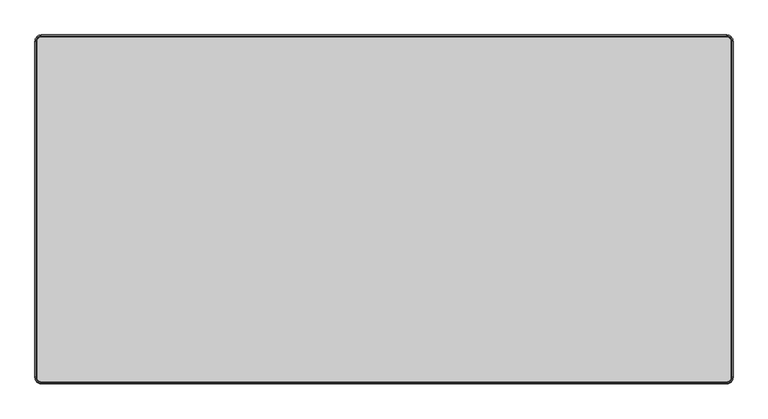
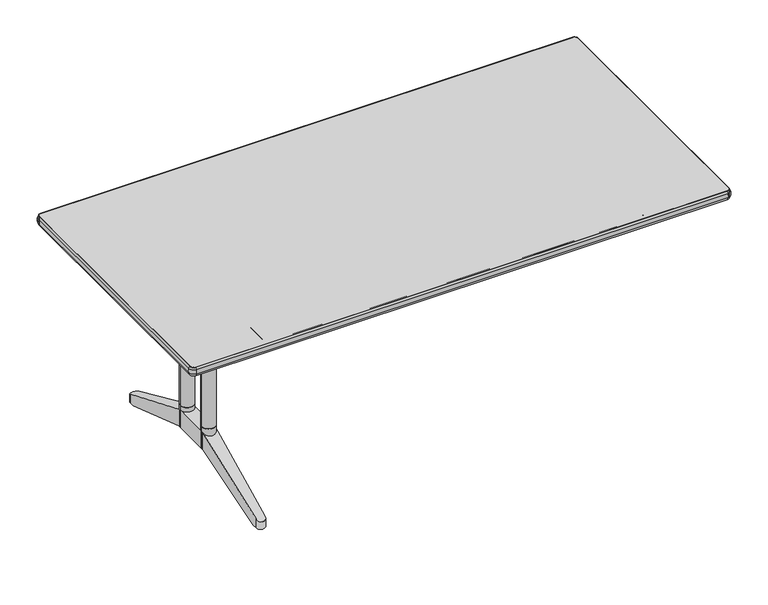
"""IFC4 building model written with IfcOpenShell, lengths in millimetres: furniture geometry, Furniture_Wilkhahn_614-00_TimetableShift : TIMETABLE SHIFT 614/00 1600L x 0800W."""

import ifcopenshell
import ifcopenshell.guid

model = None  # the IFC model being written
_history = None  # IfcOwnerHistory: only IFC2X3 demands one
_inside = {}  # id of a spatial element -> (the spatial element, [elements in it])
_under = {}  # id of a project, library or spatial element -> (it, [spatial elements below it])
_declared = {}  # id of a project -> (the project, [libraries it declares])
_typed = {}  # id of a type object -> (the type object, [elements of that type])
_made_of = {}  # id of a material, layer set ... -> (it, [elements and type objects made of it])


def new_model(schema):
    """Start an empty IFC model of exactly this schema.

    Asked for "IFC4X3", IfcOpenShell would pick the latest addendum, in which some entities
    have other attributes; the version numbers below select the first issue.
    IFC2X3 requires an IfcOwnerHistory on every rooted entity: one is made here for all.
    """
    global model, _history
    if schema == "IFC4X3":
        model = ifcopenshell.file(schema_version=(4, 3, 0, 0))
    else:
        model = ifcopenshell.file(schema=schema)
    _inside.clear()
    _under.clear()
    _declared.clear()
    _typed.clear()
    _made_of.clear()
    _history = None
    if model.schema == "IFC2X3":
        org = make("IfcOrganization", Name="unknown")
        user = make(
            "IfcPersonAndOrganization",
            ThePerson=make("IfcPerson", FamilyName="unknown"),
            TheOrganization=org,
        )
        app = make(
            "IfcApplication",
            ApplicationDeveloper=org,
            Version="unknown",
            ApplicationFullName="unknown",
            ApplicationIdentifier="unknown",
        )
        _history = make(
            "IfcOwnerHistory",
            OwningUser=user,
            OwningApplication=app,
            ChangeAction="ADDED",
            CreationDate=0,
        )
    return model


def make(cls, **values):
    """One entity of the class cls with the attributes given. An attribute that is None is left unset."""
    return model.create_entity(
        cls, **{name: value for name, value in values.items() if value is not None}
    )


def rooted(cls, **values):
    """An entity with a GlobalId (a new one), such as an element, a storey or a relation."""
    return make(cls, GlobalId=ifcopenshell.guid.new(), OwnerHistory=_history, **values)


def si_unit(unit_type, name, prefix=None):
    """IfcSIUnit, for example si_unit("LENGTHUNIT", "METRE", prefix="MILLI")."""
    return make("IfcSIUnit", UnitType=unit_type, Prefix=prefix, Name=name)


def assignment(units):
    """IfcUnitAssignment: the units of a project."""
    return None if units is None else make("IfcUnitAssignment", Units=units)


def point(xyz):
    """IfcCartesianPoint."""
    return None if xyz is None else make("IfcCartesianPoint", Coordinates=xyz)


def direction(xyz):
    """IfcDirection."""
    return None if xyz is None else make("IfcDirection", DirectionRatios=xyz)


def frame(location, z_axis=None, x_axis=None):
    """IfcAxis2Placement3D, a coordinate frame: its origin and axes. An axis left out is left unset."""
    return make(
        "IfcAxis2Placement3D",
        Location=point(location),
        Axis=direction(z_axis),
        RefDirection=direction(x_axis),
    )


def frame_2d(location, x_axis=None):
    """IfcAxis2Placement2D, a coordinate frame in the plane: its origin and x axis."""
    return make(
        "IfcAxis2Placement2D", Location=point(location), RefDirection=direction(x_axis)
    )


def origin():
    """The frame at (0, 0, 0) with its axes left unset."""
    return frame((0.0, 0.0, 0.0))


def place(relative_to, where):
    """IfcLocalPlacement: puts the frame where relative to a parent placement (None: the world)."""
    return make(
        "IfcLocalPlacement", PlacementRelTo=relative_to, RelativePlacement=where
    )


def context(
    kind, dimensions, precision=None, world=None, true_north=None, identifier=None
):
    """IfcGeometricRepresentationContext, for example the 3D "Model" context."""
    return make(
        "IfcGeometricRepresentationContext",
        ContextIdentifier=identifier,
        ContextType=kind,
        CoordinateSpaceDimension=dimensions,
        Precision=precision,
        WorldCoordinateSystem=world,
        TrueNorth=true_north,
    )


def project(units=None, contexts=None):
    """IfcProject with its units and contexts."""
    return rooted(
        "IfcProject",
        Name="project",
        RepresentationContexts=contexts,
        UnitsInContext=assignment(units),
    )


def spatial(cls, under=None, at=None, **own):
    """A site, building, storey or space (cls), placed at a placement, below another one or the project."""
    s = rooted(cls, ObjectPlacement=at, **own)
    if under is not None:
        _under.setdefault(under.id(), (under, []))[1].append(s)
    return s


def polyline(points):
    """IfcPolyline through the points."""
    return make("IfcPolyline", Points=[point(p) for p in points])


def circle_curve(where, radius):
    """IfcCircle in the frame where."""
    return make("IfcCircle", Position=where, Radius=radius)


def ellipse_curve(where, semi_axis1, semi_axis2):
    """IfcEllipse in the frame where."""
    return make(
        "IfcEllipse", Position=where, SemiAxis1=semi_axis1, SemiAxis2=semi_axis2
    )


def trimmed(basis, trim1, trim2, sense, master):
    """IfcTrimmedCurve: the piece of a basis curve between two trims."""
    return make(
        "IfcTrimmedCurve",
        BasisCurve=basis,
        Trim1=trim1,
        Trim2=trim2,
        SenseAgreement=sense,
        MasterRepresentation=master,
    )


def segment(curve, same_sense, transition):
    """IfcCompositeCurveSegment."""
    return make(
        "IfcCompositeCurveSegment",
        Transition=transition,
        SameSense=same_sense,
        ParentCurve=curve,
    )


def composite_curve(segments, self_intersect=None):
    """IfcCompositeCurve: segments joined end to end."""
    return make("IfcCompositeCurve", Segments=segments, SelfIntersect=self_intersect)


def outline(outer, holes=None, kind="AREA"):
    """IfcArbitraryClosedProfileDef: a profile drawn as a closed curve; with holes, ...WithVoids."""
    if holes is None:
        return make("IfcArbitraryClosedProfileDef", ProfileType=kind, OuterCurve=outer)
    return make(
        "IfcArbitraryProfileDefWithVoids",
        ProfileType=kind,
        OuterCurve=outer,
        InnerCurves=holes,
    )


def extrude(swept, where, along, depth):
    """IfcExtrudedAreaSolid: the profile swept, set in the frame where, extruded along a direction by depth."""
    return make(
        "IfcExtrudedAreaSolid",
        SweptArea=swept,
        Position=where,
        ExtrudedDirection=direction(along),
        Depth=depth,
    )


def shape(context_of_items, identifier, shape_type, items):
    """IfcShapeRepresentation: the items that make up one representation, for example the "Body"."""
    return make(
        "IfcShapeRepresentation",
        ContextOfItems=context_of_items,
        RepresentationIdentifier=identifier,
        RepresentationType=shape_type,
        Items=items,
    )


def source(mapping_origin, context_of_items, identifier, shape_type, items):
    """IfcRepresentationMap: a shape defined once, which mapped items show again and again."""
    return make(
        "IfcRepresentationMap",
        MappingOrigin=mapping_origin,
        MappedRepresentation=shape(context_of_items, identifier, shape_type, items),
    )


def transform(
    local_origin,
    x_axis=None,
    y_axis=None,
    z_axis=None,
    scale=None,
    scale2=None,
    scale3=None,
    uniform=True,
):
    """IfcCartesianTransformationOperator3D, or its non-uniform kind. x_axis, y_axis, z_axis: its Axis1, 2, 3."""
    if uniform:
        return make(
            "IfcCartesianTransformationOperator3D",
            Axis1=direction(x_axis),
            Axis2=direction(y_axis),
            LocalOrigin=point(local_origin),
            Scale=scale,
            Axis3=direction(z_axis),
        )
    return make(
        "IfcCartesianTransformationOperator3DnonUniform",
        Axis1=direction(x_axis),
        Axis2=direction(y_axis),
        LocalOrigin=point(local_origin),
        Scale=scale,
        Axis3=direction(z_axis),
        Scale2=scale2,
        Scale3=scale3,
    )


def mapped(mapping_source, mapping_target):
    """IfcMappedItem: shows the shape of a source again, moved by a transform."""
    return make(
        "IfcMappedItem", MappingSource=mapping_source, MappingTarget=mapping_target
    )


def made_of(thing, what):
    """Note that an element or type object is made of a material, layer set ...; save() writes the relation."""
    if what is not None:
        _made_of.setdefault(what.id(), (what, []))[1].append(thing)
    return thing


def element(
    cls,
    number,
    at=None,
    inside=None,
    cuts=None,
    type_object=None,
    material=None,
    context=None,
    identifier="Body",
    shape_type=None,
    held_by="IfcProductDefinitionShape",
    body=None,
    shapes=None,
    **own,
):
    """One element of the class cls, such as IfcWall. Its Tag is "e" and its number.

    at: its placement. inside: the storey or other place that contains it. cuts: it is an
    opening in that element (IfcRelVoidsElement). A single representation is given by context,
    identifier, shape_type and body (its items); several are given by shapes. held_by: the class
    of the entity that holds the representations. save() writes the other relations.
    """
    e = rooted(cls, Tag="e%d" % number, ObjectPlacement=at, **own)
    if body is not None:
        shapes = [shape(context, identifier, shape_type, body)]
    if shapes is not None:
        e.Representation = make(held_by, Representations=shapes)
    if inside is not None:
        _inside.setdefault(inside.id(), (inside, []))[1].append(e)
    if cuts is not None:
        rooted(
            "IfcRelVoidsElement", RelatingBuildingElement=cuts, RelatedOpeningElement=e
        )
    if type_object is not None:
        _typed.setdefault(type_object.id(), (type_object, []))[1].append(e)
    return made_of(e, material)


def aggregate(whole, parts):
    """IfcRelAggregates: a whole, such as a stair, and the parts it consists of."""
    return rooted("IfcRelAggregates", RelatingObject=whole, RelatedObjects=parts)


def save(model, path):
    """Write the relations noted so far, then the file.

    IfcRelAggregates (storeys below a building ...), IfcRelContainedInSpatialStructure (elements
    in a storey), IfcRelDefinesByType, IfcRelAssociatesMaterial and IfcRelDeclares: one each for
    every whole, place, type object, material and project.
    """
    for whole, parts in _under.values():
        aggregate(whole, parts)
    for where, things in _inside.values():
        rooted(
            "IfcRelContainedInSpatialStructure",
            RelatedElements=things,
            RelatingStructure=where,
        )
    for kind, things in _typed.values():
        rooted("IfcRelDefinesByType", RelatedObjects=things, RelatingType=kind)
    for what, things in _made_of.values():
        rooted("IfcRelAssociatesMaterial", RelatedObjects=things, RelatingMaterial=what)
    for by, libraries in _declared.values():
        rooted("IfcRelDeclares", RelatingContext=by, RelatedDefinitions=libraries)
    model.write(path)


def plane_surface(at):
    """IfcPlane: the flat surface through the origin of the frame at, square to its z axis."""
    return make("IfcPlane", Position=at)


def cylinder_surface(at, radius):
    """IfcCylindricalSurface: all points at the distance radius from the z axis of the frame at."""
    return make("IfcCylindricalSurface", Position=at, Radius=radius)


def revolved_surface(curve, axis_point, axis_direction):
    """IfcSurfaceOfRevolution: the curve turned about the line through axis_point along axis_direction."""
    return make(
        "IfcSurfaceOfRevolution",
        SweptCurve=make("IfcArbitraryOpenProfileDef", ProfileType="CURVE", Curve=curve),
        AxisPosition=make("IfcAxis1Placement", Location=point(axis_point), Axis=direction(axis_direction)),
    )


def advanced_brep(points, edges, surfaces, faces):
    """IfcAdvancedBrep: a solid bounded by faces that lie on surfaces and meet in shared edges.

    An edge is (start, end): straight between two places in points (the first is 0);
    or (start, end, curve); or (start, end, curve, False) where it runs against its curve.
    A face is (place in surfaces, loops), or (place, loops, False) where it looks against
    its surface's normal. A loop lists edges by number (the first is 1), with a minus sign
    where the edge is run from its end to its start. The first loop is the outer one.
    """
    corners = [point(p) for p in points]
    vertices = [make("IfcVertexPoint", VertexGeometry=c) for c in corners]
    made = []
    for start, end, *more in edges:
        made.append(
            make(
                "IfcEdgeCurve",
                EdgeStart=vertices[start],
                EdgeEnd=vertices[end],
                EdgeGeometry=more[0] if more else make("IfcPolyline", Points=[corners[start], corners[end]]),
                SameSense=more[1] if len(more) > 1 else True,
            )
        )
    hull = []
    for where, loops, *sense in faces:
        bounds = []
        for j, loop in enumerate(loops):
            ring = [make("IfcOrientedEdge", EdgeElement=made[abs(k) - 1], Orientation=k > 0) for k in loop]
            bounds.append(
                make(
                    "IfcFaceOuterBound" if j == 0 else "IfcFaceBound",
                    Bound=make("IfcEdgeLoop", EdgeList=ring),
                    Orientation=True,
                )
            )
        hull.append(make("IfcAdvancedFace", Bounds=bounds, FaceSurface=surfaces[where], SameSense=sense[0] if sense else True))
    return make("IfcAdvancedBrep", Outer=make("IfcClosedShell", CfsFaces=hull))


def furniture_3bb7f51b(model_context):
    return source(origin(), model_context, "Body", "SolidModel", [
        extrude(outline(composite_curve([segment(trimmed(circle_curve(frame_2d((-550.0, -154.0488451)), 20.0), [point((-570.0, -154.0488451))], [point((-530.0, -154.0488451))], False, "CARTESIAN"), True, "CONTINUOUS"), segment(trimmed(circle_curve(frame_2d((-550.0, -154.0488451)), 20.0), [point((-530.0, -154.0488451))], [point((-570.0, -154.0488451))], False, "CARTESIAN"), True, "CONTINUOUS")], self_intersect=False)), frame((0.0, 0.0, 193.3080085), z_axis=(0.0, 0.0, 1.0), x_axis=(1.0, 0.0, 0.0)), (0.0, 0.0, 1.0), 68.8536941),
        extrude(outline(composite_curve([segment(trimmed(circle_curve(frame_2d((-550.0, -44.0488461)), 20.0), [point((-570.0, -44.0488461))], [point((-530.0, -44.0488461))], False, "CARTESIAN"), True, "CONTINUOUS"), segment(trimmed(circle_curve(frame_2d((-550.0, -44.0488461)), 20.0), [point((-530.0, -44.0488461))], [point((-570.0, -44.0488461))], False, "CARTESIAN"), True, "CONTINUOUS")], self_intersect=False)), frame((0.0, 0.0, 193.3080085), z_axis=(0.0, 0.0, 1.0), x_axis=(1.0, 0.0, 0.0)), (0.0, 0.0, 1.0), 68.8536941),
        extrude(outline(composite_curve([segment(trimmed(circle_curve(frame_2d((-550.0, -154.0488451)), 20.0), [point((-570.0, -154.0488451))], [point((-530.0, -154.0488451))], False, "CARTESIAN"), True, "CONTINUOUS"), segment(trimmed(circle_curve(frame_2d((-550.0, -154.0488451)), 20.0), [point((-530.0, -154.0488451))], [point((-570.0, -154.0488451))], False, "CARTESIAN"), True, "CONTINUOUS")], self_intersect=False)), frame((0.0, 0.0, 262.1617027), z_axis=(0.0, 0.0, 1.0), x_axis=(1.0, 0.0, 0.0)), (0.0, 0.0, 1.0), 317.8382973),
        extrude(outline(composite_curve([segment(trimmed(circle_curve(frame_2d((-550.0, -44.0488461)), 20.0), [point((-570.0, -44.0488461))], [point((-530.0, -44.0488461))], False, "CARTESIAN"), True, "CONTINUOUS"), segment(trimmed(circle_curve(frame_2d((-550.0, -44.0488461)), 20.0), [point((-530.0, -44.0488461))], [point((-570.0, -44.0488461))], False, "CARTESIAN"), True, "CONTINUOUS")], self_intersect=False)), frame((0.0, 0.0, 262.1617027), z_axis=(0.0, 0.0, 1.0), x_axis=(1.0, 0.0, 0.0)), (0.0, 0.0, 1.0), 317.8382973),
        extrude(outline(polyline([(-523.9999882, 147.9511612), (-523.9999882, -352.0488426), (-576.0000118, -352.0488426), (-576.0000118, 147.9511612), (-523.9999882, 147.9511612)])), frame((0.0, 0.0, 676.0000168), z_axis=(0.0, 0.0, 1.0), x_axis=(1.0, 0.0, 0.0)), (0.0, 0.0, 1.0), 27.9999624),
        advanced_brep(
        [(-564.9998762, -140.8200278, 676.0000168), (-534.9998905, -140.8201331, 676.0000168), (-534.9998905, -134.0488456, 676.0000168), (-564.9998762, -134.0488456, 676.0000168), (-534.9998905, -57.2775581, 676.0000168), (-564.9998762, -57.2776634, 676.0000168), (-564.9998762, -64.0488456, 676.0000168), (-534.9998905, -64.0488456, 676.0000168), (-564.9998762, -57.2776634, 580.0), (-534.9998905, -57.2775581, 580.0), (-534.9998905, -140.8201331, 580.0), (-564.9998762, -140.8200278, 580.0), (-564.9998762, -134.0488456, 598.0000176), (-564.9998762, -64.0488456, 598.0000176), (-534.9998905, -64.0488456, 598.0000176), (-534.9998905, -134.0488456, 598.0000176)],
        [
            (0, 1, circle_curve(frame((-549.9999298, -154.0488451, 676.0000168), z_axis=(0.0, 0.0, 1.0), x_axis=(1.0, 0.0, 0.0)), 20.0)),
            (1, 2),
            (2, 3),
            (3, 0),
            (4, 5, circle_curve(frame((-549.9999298, -44.0488461, 676.0000168), z_axis=(0.0, 0.0, 1.0), x_axis=(1.0, 0.0, 0.0)), 20.0)),
            (5, 6),
            (6, 7),
            (7, 4),
            (8, 9, circle_curve(frame((-549.9999298, -44.0488461, 580.0), z_axis=(0.0, 0.0, -1.0), x_axis=(1.0, 0.0, 0.0)), 20.0)),
            (9, 10),
            (10, 11, circle_curve(frame((-549.9999298, -154.0488451, 580.0), z_axis=(0.0, 0.0, -1.0), x_axis=(1.0, 0.0, 0.0)), 20.0)),
            (11, 8),
            (11, 0),
            (3, 12),
            (12, 13),
            (13, 6),
            (5, 8),
            (10, 1),
            (9, 4),
            (7, 14),
            (14, 15),
            (15, 2),
            (15, 12),
            (14, 13),
        ],
        [
            plane_surface(frame((-564.9998762, -140.8200278, 676.0000168), z_axis=(0.0, 0.0, 1.0), x_axis=(0.0, -1.0, 0.0))),
            plane_surface(frame((-564.9998762, -140.8200278, 580.0), z_axis=(0.0, 0.0, -1.0), x_axis=(0.0, 1.0, 0.0))),
            plane_surface(frame((-564.9998762, -57.2776634, 676.0000168), z_axis=(-1.0, 0.0, 0.0), x_axis=(0.0, 0.0, -1.0))),
            cylinder_surface(frame((-549.9999298, -154.0488451, 580.0), z_axis=(0.0, 0.0, 1.0), x_axis=(1.0, 0.0, 0.0)), 20.0),
            plane_surface(frame((-534.9998905, -140.8201331, 676.0000168), z_axis=(1.0, 0.0, 0.0), x_axis=(0.0, 0.0, -1.0))),
            cylinder_surface(frame((-549.9999298, -44.0488461, 580.0), z_axis=(0.0, 0.0, 1.0), x_axis=(1.0, 0.0, 0.0)), 20.0),
            plane_surface(frame((-534.9998905, -134.0488456, 676.0000168), z_axis=(0.0, 1.0, 0.0), x_axis=(-1.0, 0.0, 0.0))),
            plane_surface(frame((-534.9998905, -134.0488456, 598.0000176), z_axis=(0.0, 0.0, 1.0), x_axis=(-1.0, 0.0, 0.0))),
            plane_surface(frame((-534.9998905, -64.0488456, 598.0000176), z_axis=(0.0, -1.0, 0.0), x_axis=(-1.0, 0.0, 0.0))),
        ],
        [
            (0, [[1, 2, 3, 4]]),
            (0, [[5, 6, 7, 8]]),
            (1, [[9, 10, 11, 12]]),
            (2, [[-12, 13, -4, 14, 15, 16, -6, 17]]),
            (3, [[-1, -13, -11, 18]]),
            (4, [[-10, 19, -8, 20, 21, 22, -2, -18]]),
            (5, [[-5, -19, -9, -17]]),
            (6, [[23, -14, -3, -22]]),
            (7, [[-23, -21, 24, -15]]),
            (8, [[-24, -20, -7, -16]]),
        ],
    ),
        advanced_brep(
        [(-536.5271049, 208.4135103, 105.0), (-563.472897, 208.4135103, 105.0), (-563.1262294, 221.8222582, 105.0), (-536.8737706, 221.8222564, 105.0), (-563.1262294, 221.8222582, 133.4205559), (-570.0000182, -44.0488461, 248.3080085), (-530.0000182, -44.0488461, 248.3080085), (-536.8737706, 221.8222564, 133.4205567), (-530.2000412, -36.3121196, 193.3080085), (-569.7999941, -36.3121196, 193.3080085), (-536.8737706, -419.9199475, 133.4205567), (-530.0000182, -154.0488451, 248.3080085), (-570.0000182, -154.0488451, 248.3080085), (-563.1262294, -419.9199493, 133.4205559), (-536.8737706, -419.9199475, 105.0), (-536.5271049, -406.5112014, 105.0), (-530.2000412, -161.7855715, 193.3080085), (-530.0000182, -154.0488451, 193.3080085), (-563.1262294, -419.9199493, 105.0), (-570.0000182, -154.0488451, 193.3080085), (-569.7999941, -161.7855715, 193.3080085), (-563.472897, -406.5112014, 105.0), (-570.0000182, -44.0488461, 193.3080085), (-530.0000182, -44.0488461, 193.3080085)],
        [
            (0, 1),
            (1, 2),
            (2, 3, circle_curve(frame((-550.0, 221.4828948, 105.0), z_axis=(0.0, 0.0, -1.0), x_axis=(1.0, 0.0, 0.0)), 13.1306156)),
            (3, 0),
            (4, 5),
            (5, 6),
            (6, 7),
            (7, 4, ellipse_curve(frame((-550.0, 221.4828948, 133.5672007), z_axis=(0.0, 0.3966672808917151, 0.9179624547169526), x_axis=(0.0, 0.9179624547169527, -0.39666728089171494)), 14.3040878, 13.1306156)),
            (0, 8),
            (8, 9),
            (9, 1),
            (10, 11),
            (11, 12),
            (12, 13),
            (13, 10, ellipse_curve(frame((-550.0, -419.5805859, 133.5672007), z_axis=(0.0, -0.3966672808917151, 0.9179624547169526), x_axis=(0.0, -0.9179624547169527, -0.39666728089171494)), 14.3040878, 13.1306156)),
            (10, 14),
            (14, 15),
            (15, 16),
            (16, 17),
            (17, 11),
            (13, 18),
            (18, 14, circle_curve(frame((-550.0, -419.5805859, 105.0), z_axis=(0.0, 0.0, 1.0), x_axis=(1.0, 0.0, 0.0)), 13.1306156)),
            (12, 19),
            (19, 20),
            (20, 21),
            (21, 18),
            (4, 2),
            (9, 22),
            (22, 5),
            (7, 3),
            (6, 23),
            (23, 8),
            (21, 15),
            (20, 16),
            (11, 6),
            (5, 12),
            (22, 19),
            (17, 23),
        ],
        [
            plane_surface(frame((-528.6205415, 208.4135103, 105.0), z_axis=(0.0, 0.0, -1.0), x_axis=(-1.0, 0.0, 0.0))),
            plane_surface(frame((-528.6205415, 235.9511544, 127.3152182), z_axis=(0.0, 0.3966672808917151, 0.9179624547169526), x_axis=(-1.0, 0.0, 0.0))),
            plane_surface(frame((-528.6205415, -36.3121196, 193.3080085), z_axis=(0.0, -0.3394229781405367, -0.9406338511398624), x_axis=(-1.0, 0.0, 0.0))),
            plane_surface(frame((-528.6205415, -154.0488451, 248.3080085), z_axis=(0.0, -0.3966672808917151, 0.9179624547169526), x_axis=(-1.0, 0.0, 0.0))),
            plane_surface(frame((-530.0000182, -154.0488451, 249.0000084), z_axis=(0.9996659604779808, -0.025845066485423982, 0.0), x_axis=(0.0, 0.0, -1.0))),
            cylinder_surface(frame((-550.0, -419.5805859, 90.0000025), z_axis=(0.0, 0.0, -1.0), x_axis=(1.0, 0.0, 0.0)), 13.1306156),
            plane_surface(frame((-563.1262294, -419.9199493, 249.0000084), z_axis=(-0.9996659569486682, -0.025845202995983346, 0.0), x_axis=(0.0, 0.0, -1.0))),
            plane_surface(frame((-570.0000182, -44.0488461, 249.0000084), z_axis=(-0.9996659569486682, 0.025845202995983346, 0.0), x_axis=(0.0, 0.0, -1.0))),
            cylinder_surface(frame((-550.0, 221.4828948, 0.0), z_axis=(0.0, 0.0, -1.0), x_axis=(1.0, 0.0, 0.0)), 13.1306156),
            plane_surface(frame((-536.8737706, 221.8222564, 249.0000084), z_axis=(0.9996659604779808, 0.025845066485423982, 0.0), x_axis=(0.0, 0.0, -1.0))),
            plane_surface(frame((-528.6205415, -434.0488456, 105.0), z_axis=(0.0, 0.0, -1.0), x_axis=(-1.0, 0.0, 0.0))),
            plane_surface(frame((-528.6205415, -406.5112014, 105.0), z_axis=(0.0, 0.3394229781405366, -0.9406338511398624), x_axis=(-1.0, 0.0, 0.0))),
            plane_surface(frame((-530.0000182, -44.0488461, 248.3080085), z_axis=(0.0, 0.0, 1.0), x_axis=(0.0, 1.0, 0.0))),
            plane_surface(frame((-570.0000182, -44.0488461, 248.3080085), z_axis=(-1.0, 0.0, 0.0), x_axis=(0.0, 0.0, -1.0))),
            plane_surface(frame((-530.0000182, -154.0488451, 248.3080085), z_axis=(1.0, 0.0, 0.0), x_axis=(0.0, 0.0, -1.0))),
            plane_surface(frame((-528.6205415, -44.0488461, 193.3080085), z_axis=(0.0, 0.0, -1.0), x_axis=(-1.0, 0.0, 0.0))),
        ],
        [
            (0, [[1, 2, 3, 4]]),
            (1, [[5, 6, 7, 8]]),
            (2, [[-1, 9, 10, 11]]),
            (3, [[12, 13, 14, 15]]),
            (4, [[16, 17, 18, 19, 20, -12]]),
            (5, [[-16, -15, 21, 22]]),
            (6, [[-21, -14, 23, 24, 25, 26]]),
            (7, [[27, -2, -11, 28, 29, -5]]),
            (8, [[-27, -8, 30, -3]]),
            (9, [[-30, -7, 31, 32, -9, -4]]),
            (10, [[33, -17, -22, -26]]),
            (11, [[-33, -25, 34, -18]]),
            (12, [[35, -6, 36, -13]]),
            (13, [[-36, -29, 37, -23]]),
            (14, [[-35, -20, 38, -31]]),
            (15, [[-10, -32, -38, -19, -34, -24, -37, -28]]),
        ],
    ),
        extrude(outline(composite_curve([segment(trimmed(circle_curve(frame_2d((-785.0, 285.9511544)), 10.0), [point((-795.0, 285.9511544))], [point((-785.0, 295.9511544))], False, "CARTESIAN"), True, "CONTINUOUS"), segment(polyline([(-785.0, 295.9511544), (785.0, 295.9511544)]), True, "CONTINUOUS"), segment(trimmed(circle_curve(frame_2d((785.0, 285.9511544)), 10.0), [point((785.0, 295.9511544))], [point((795.0, 285.9511544))], False, "CARTESIAN"), True, "CONTINUOUS"), segment(polyline([(795.0, 285.9511544), (795.0, -484.0488456)]), True, "CONTINUOUS"), segment(trimmed(circle_curve(frame_2d((785.0, -484.0488456)), 10.0), [point((795.0, -484.0488456))], [point((785.0, -494.0488456))], False, "CARTESIAN"), True, "CONTINUOUS"), segment(polyline([(785.0, -494.0488456), (-785.0, -494.0488456)]), True, "CONTINUOUS"), segment(trimmed(circle_curve(frame_2d((-785.0, -484.0488456)), 10.0), [point((-785.0, -494.0488456))], [point((-795.0, -484.0488456))], False, "CARTESIAN"), True, "CONTINUOUS"), segment(polyline([(-795.0, -484.0488456), (-795.0, 285.9511544)]), True, "CONTINUOUS")], self_intersect=False)), frame((0.0, 0.0, 703.9999792), z_axis=(0.0, 0.0, 1.0), x_axis=(1.0, 0.0, 0.0)), (0.0, 0.0, 1.0), 26.0000208),
        extrude(outline(composite_curve([segment(trimmed(circle_curve(frame_2d((689.999998, -550.0)), 3.5), [point((686.499998, -550.0))], [point((693.499998, -550.0))], False, "CARTESIAN"), True, "CONTINUOUS"), segment(trimmed(circle_curve(frame_2d((689.999998, -550.0)), 3.5), [point((693.499998, -550.0))], [point((686.499998, -550.0))], False, "CARTESIAN"), True, "CONTINUOUS")], self_intersect=False)), frame((0.0, -425.4394749, 0.0), z_axis=(0.0, 1.0, 0.0), x_axis=(0.0, 0.0, 1.0)), (0.0, 0.0, 1.0), 73.3906323),
        extrude(outline(composite_curve([segment(trimmed(circle_curve(frame_2d((689.999998, 550.0)), 3.5), [point((686.499998, 550.0))], [point((693.499998, 550.0))], False, "CARTESIAN"), True, "CONTINUOUS"), segment(trimmed(circle_curve(frame_2d((689.999998, 550.0)), 3.5), [point((693.499998, 550.0))], [point((686.499998, 550.0))], False, "CARTESIAN"), True, "CONTINUOUS")], self_intersect=False)), frame((0.0, -425.4394749, 0.0), z_axis=(0.0, 1.0, 0.0), x_axis=(0.0, 0.0, 1.0)), (0.0, 0.0, 1.0), 73.3906323),
        advanced_brep(
        [(-785.0, -494.0488456, 703.9999792), (-795.0, -484.0488456, 703.9999792), (-795.0, -484.0488456, 730.0), (-785.0, -494.0488456, 730.0), (-785.0, -497.4983863, 710.4062743), (-798.4495407, -484.0488456, 710.4062743), (-796.2436764, -484.0488456, 703.9999792), (-785.0, -495.292522, 703.9999792), (-785.0, -497.4983863, 723.593705), (-798.4495407, -484.0488456, 723.593705), (-785.0, -495.292522, 730.0), (-796.2436764, -484.0488456, 730.0), (785.0, -494.0488456, 730.0), (785.0, -494.0488456, 703.9999792), (785.0, -495.292522, 703.9999792), (785.0, -497.4983863, 710.4062743), (785.0, -497.4983863, 723.593705), (785.0, -495.292522, 730.0), (795.0, -484.0488456, 703.9999792), (795.0, -484.0488456, 730.0), (798.4495407, -484.0488456, 710.4062743), (796.2436764, -484.0488456, 703.9999792), (798.4495407, -484.0488456, 723.593705), (796.2436764, -484.0488456, 730.0), (795.0, 285.9511544, 730.0), (795.0, 285.9511544, 703.9999792), (796.2436764, 285.9511544, 703.9999792), (798.4495407, 285.9511544, 710.4062743), (798.4495407, 285.9511544, 723.593705), (796.2436764, 285.9511544, 730.0), (785.0, 295.9511544, 703.9999792), (785.0, 295.9511544, 730.0), (785.0, 299.4006952, 710.4062743), (785.0, 297.1948309, 703.9999792), (785.0, 299.4006952, 723.593705), (785.0, 297.1948309, 730.0), (-785.0, 295.9511544, 730.0), (-785.0, 295.9511544, 703.9999792), (-785.0, 297.1948309, 703.9999792), (-785.0, 299.4006952, 710.4062743), (-785.0, 299.4006952, 723.593705), (-785.0, 297.1948309, 730.0), (-795.0, 285.9511544, 703.9999792), (-795.0, 285.9511544, 730.0), (-798.4495407, 285.9511544, 710.4062743), (-796.2436764, 285.9511544, 703.9999792), (-798.4495407, 285.9511544, 723.593705), (-796.2436764, 285.9511544, 730.0)],
        [
            (0, 1, circle_curve(frame((-785.0, -484.0488456, 703.9999792), z_axis=(0.0, 0.0, -1.0), x_axis=(-1.0, 0.0, 0.0)), 10.0)),
            (1, 2),
            (2, 3, circle_curve(frame((-785.0, -484.0488456, 730.0), z_axis=(0.0, 0.0, 1.0), x_axis=(-1.0, 0.0, 0.0)), 10.0)),
            (3, 0),
            (4, 5, circle_curve(frame((-785.0, -484.0488456, 710.4062743), z_axis=(0.0, 0.0, -1.0), x_axis=(-1.0, 0.0, 0.0)), 13.4495407)),
            (5, 6),
            (6, 7, circle_curve(frame((-785.0, -484.0488456, 703.9999792), z_axis=(0.0, 0.0, 1.0), x_axis=(-1.0, 0.0, 0.0)), 11.2436764)),
            (7, 4),
            (8, 9, circle_curve(frame((-785.0, -484.0488456, 723.593705), z_axis=(0.0, 0.0, -1.0), x_axis=(-1.0, 0.0, 0.0)), 13.4495407)),
            (9, 5, circle_curve(frame((-785.2040596, -484.0488456, 716.9999896), z_axis=(0.0, -1.0, 0.0), x_axis=(1.0, 0.0, 0.0)), 14.7959404)),
            (4, 8, circle_curve(frame((-785.0, -484.2529051, 716.9999896), z_axis=(-1.0, 0.0, 0.0), x_axis=(0.0, 1.0, 0.0)), 14.7959404)),
            (10, 11, circle_curve(frame((-785.0, -484.0488456, 730.0), z_axis=(0.0, 0.0, -1.0), x_axis=(-1.0, 0.0, 0.0)), 11.2436764)),
            (11, 9),
            (8, 10),
            (3, 12),
            (12, 13),
            (13, 0),
            (7, 14),
            (14, 15),
            (15, 4),
            (15, 16, circle_curve(frame((785.0, -484.2529051, 716.9999896), z_axis=(-1.0, 0.0, 0.0), x_axis=(0.0, 1.0, 0.0)), 14.7959404)),
            (16, 8),
            (16, 17),
            (17, 10),
            (18, 13, circle_curve(frame((785.0, -484.0488456, 703.9999792), z_axis=(0.0, 0.0, -1.0), x_axis=(0.0, -1.0, 0.0)), 10.0)),
            (12, 19, circle_curve(frame((785.0, -484.0488456, 730.0), z_axis=(0.0, 0.0, 1.0), x_axis=(0.0, -1.0, 0.0)), 10.0)),
            (19, 18),
            (20, 15, circle_curve(frame((785.0, -484.0488456, 710.4062743), z_axis=(0.0, 0.0, -1.0), x_axis=(0.0, -1.0, 0.0)), 13.4495407)),
            (14, 21, circle_curve(frame((785.0, -484.0488456, 703.9999792), z_axis=(0.0, 0.0, 1.0), x_axis=(0.0, -1.0, 0.0)), 11.2436764)),
            (21, 20),
            (22, 16, circle_curve(frame((785.0, -484.0488456, 723.593705), z_axis=(0.0, 0.0, -1.0), x_axis=(0.0, -1.0, 0.0)), 13.4495407)),
            (20, 22, circle_curve(frame((785.2040596, -484.0488456, 716.9999896), z_axis=(0.0, -1.0, 0.0), x_axis=(-1.0, 0.0, 0.0)), 14.7959404)),
            (23, 17, circle_curve(frame((785.0, -484.0488456, 730.0), z_axis=(0.0, 0.0, -1.0), x_axis=(0.0, -1.0, 0.0)), 11.2436764)),
            (22, 23),
            (19, 24),
            (24, 25),
            (25, 18),
            (21, 26),
            (26, 27),
            (27, 20),
            (27, 28, circle_curve(frame((785.2040596, 285.9511544, 716.9999896), z_axis=(0.0, -1.0, 0.0), x_axis=(-1.0, 0.0, 0.0)), 14.7959404)),
            (28, 22),
            (28, 29),
            (29, 23),
            (30, 25, circle_curve(frame((785.0, 285.9511544, 703.9999792), z_axis=(0.0, 0.0, -1.0), x_axis=(1.0, 0.0, 0.0)), 10.0)),
            (24, 31, circle_curve(frame((785.0, 285.9511544, 730.0), z_axis=(0.0, 0.0, 1.0), x_axis=(1.0, 0.0, 0.0)), 10.0)),
            (31, 30),
            (32, 27, circle_curve(frame((785.0, 285.9511544, 710.4062743), z_axis=(0.0, 0.0, -1.0), x_axis=(1.0, 0.0, 0.0)), 13.4495407)),
            (26, 33, circle_curve(frame((785.0, 285.9511544, 703.9999792), z_axis=(0.0, 0.0, 1.0), x_axis=(1.0, 0.0, 0.0)), 11.2436764)),
            (33, 32),
            (34, 28, circle_curve(frame((785.0, 285.9511544, 723.593705), z_axis=(0.0, 0.0, -1.0), x_axis=(1.0, 0.0, 0.0)), 13.4495407)),
            (32, 34, circle_curve(frame((785.0, 286.155214, 716.9999896), z_axis=(1.0, 0.0, 0.0), x_axis=(0.0, -1.0, 0.0)), 14.7959404)),
            (35, 29, circle_curve(frame((785.0, 285.9511544, 730.0), z_axis=(0.0, 0.0, -1.0), x_axis=(1.0, 0.0, 0.0)), 11.2436764)),
            (34, 35),
            (31, 36),
            (36, 37),
            (37, 30),
            (33, 38),
            (38, 39),
            (39, 32),
            (39, 40, circle_curve(frame((-785.0, 286.155214, 716.9999896), z_axis=(1.0, 0.0, 0.0), x_axis=(0.0, -1.0, 0.0)), 14.7959404)),
            (40, 34),
            (40, 41),
            (41, 35),
            (42, 37, circle_curve(frame((-785.0, 285.9511544, 703.9999792), z_axis=(0.0, 0.0, -1.0), x_axis=(0.0, 1.0, 0.0)), 10.0)),
            (36, 43, circle_curve(frame((-785.0, 285.9511544, 730.0), z_axis=(0.0, 0.0, 1.0), x_axis=(0.0, 1.0, 0.0)), 10.0)),
            (43, 42),
            (44, 39, circle_curve(frame((-785.0, 285.9511544, 710.4062743), z_axis=(0.0, 0.0, -1.0), x_axis=(0.0, 1.0, 0.0)), 13.4495407)),
            (38, 45, circle_curve(frame((-785.0, 285.9511544, 703.9999792), z_axis=(0.0, 0.0, 1.0), x_axis=(0.0, 1.0, 0.0)), 11.2436764)),
            (45, 44),
            (46, 40, circle_curve(frame((-785.0, 285.9511544, 723.593705), z_axis=(0.0, 0.0, -1.0), x_axis=(0.0, 1.0, 0.0)), 13.4495407)),
            (44, 46, circle_curve(frame((-785.2040596, 285.9511544, 716.9999896), z_axis=(0.0, 1.0, 0.0), x_axis=(1.0, 0.0, 0.0)), 14.7959404)),
            (47, 41, circle_curve(frame((-785.0, 285.9511544, 730.0), z_axis=(0.0, 0.0, -1.0), x_axis=(0.0, 1.0, 0.0)), 11.2436764)),
            (46, 47),
            (43, 2),
            (1, 42),
            (45, 6),
            (5, 44),
            (9, 46),
            (11, 47),
        ],
        [
            revolved_surface(polyline([(-795.0, -484.0488456, 730.0), (-795.0, -484.0488456, 703.9999792)]), (-785.0, -484.0488456, 730.0), (0.0, 0.0, 1.0)),
            revolved_surface(polyline([(-796.2436764, -484.0488456, 703.9999792), (-798.4495407, -484.0488456, 710.4062743)]), (-785.0, -484.0488456, 730.0), (0.0, 0.0, 1.0)),
            revolved_surface(trimmed(ellipse_curve(frame((-785.2040596, -484.0488456, 716.9999896), z_axis=(0.0, 1.0, 0.0), x_axis=(1.0, 0.0, 0.0)), 14.7959404, 14.7959404), [point((-798.4495407, -484.0488456, 710.4062743))], [point((-798.4495407, -484.0488456, 723.593705))], True, "CARTESIAN"), (-785.0, -484.0488456, 730.0), (0.0, 0.0, 1.0)),
            revolved_surface(polyline([(-798.4495407, -484.0488456, 723.593705), (-796.2436764, -484.0488456, 730.0)]), (-785.0, -484.0488456, 730.0), (0.0, 0.0, 1.0)),
            plane_surface(frame((-785.0, -494.0488456, 730.0), z_axis=(0.0, 1.0, 0.0), x_axis=(1.0, 0.0, 0.0))),
            plane_surface(frame((-785.0, -495.292522, 703.9999792), z_axis=(0.0, -0.9455185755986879, -0.32556815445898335), x_axis=(1.0, 0.0, 0.0))),
            cylinder_surface(frame((-785.0, -484.2529051, 716.9999896), z_axis=(-1.0, 0.0, 0.0), x_axis=(0.0, 1.0, 0.0)), 14.7959404),
            plane_surface(frame((-785.0, -497.4983863, 723.593705), z_axis=(0.0, -0.945518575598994, 0.32556815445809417), x_axis=(1.0, 0.0, 0.0))),
            revolved_surface(polyline([(785.0, -494.0488456, 730.0), (785.0, -494.0488456, 703.9999792)]), (785.0, -484.0488456, 730.0), (0.0, 0.0, 1.0)),
            revolved_surface(polyline([(785.0, -495.292522, 703.9999792), (785.0, -497.4983863, 710.4062743)]), (785.0, -484.0488456, 730.0), (0.0, 0.0, 1.0)),
            revolved_surface(trimmed(ellipse_curve(frame((785.0, -484.2529051, 716.9999896), z_axis=(-1.0, 0.0, 0.0), x_axis=(0.0, 1.0, 0.0)), 14.7959404, 14.7959404), [point((785.0, -497.4983863, 710.4062743))], [point((785.0, -497.4983863, 723.593705))], True, "CARTESIAN"), (785.0, -484.0488456, 730.0), (0.0, 0.0, 1.0)),
            revolved_surface(polyline([(785.0, -497.4983863, 723.593705), (785.0, -495.292522, 730.0)]), (785.0, -484.0488456, 730.0), (0.0, 0.0, 1.0)),
            plane_surface(frame((795.0, -484.0488456, 730.0), z_axis=(-1.0, 0.0, 0.0), x_axis=(0.0, 1.0, 0.0))),
            plane_surface(frame((796.2436764, -484.0488456, 703.9999792), z_axis=(0.9455185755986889, 0.0, -0.32556815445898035), x_axis=(0.0, 1.0, 0.0))),
            cylinder_surface(frame((785.2040596, -484.0488456, 716.9999896), z_axis=(0.0, -1.0, 0.0), x_axis=(-1.0, 0.0, 0.0)), 14.7959404),
            plane_surface(frame((798.4495407, -484.0488456, 723.593705), z_axis=(0.945518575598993, 0.0, 0.32556815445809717), x_axis=(0.0, 1.0, 0.0))),
            revolved_surface(polyline([(795.0, 285.9511544, 730.0), (795.0, 285.9511544, 703.9999792)]), (785.0, 285.9511544, 730.0), (0.0, 0.0, 1.0)),
            revolved_surface(polyline([(796.2436764, 285.9511544, 703.9999792), (798.4495407, 285.9511544, 710.4062743)]), (785.0, 285.9511544, 730.0), (0.0, 0.0, 1.0)),
            revolved_surface(trimmed(ellipse_curve(frame((785.2040596, 285.9511544, 716.9999896), z_axis=(0.0, -1.0, 0.0), x_axis=(-1.0, 0.0, 0.0)), 14.7959404, 14.7959404), [point((798.4495407, 285.9511544, 710.4062743))], [point((798.4495407, 285.9511544, 723.593705))], True, "CARTESIAN"), (785.0, 285.9511544, 730.0), (0.0, 0.0, 1.0)),
            revolved_surface(polyline([(798.4495407, 285.9511544, 723.593705), (796.2436764, 285.9511544, 730.0)]), (785.0, 285.9511544, 730.0), (0.0, 0.0, 1.0)),
            plane_surface(frame((785.0, 295.9511544, 730.0), z_axis=(0.0, -1.0, 0.0), x_axis=(-1.0, 0.0, 0.0))),
            plane_surface(frame((785.0, 297.1948309, 703.9999792), z_axis=(0.0, 0.9455185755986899, -0.32556815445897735), x_axis=(-1.0, 0.0, 0.0))),
            cylinder_surface(frame((785.0, 286.155214, 716.9999896), z_axis=(1.0, 0.0, 0.0), x_axis=(0.0, -1.0, 0.0)), 14.7959404),
            plane_surface(frame((785.0, 299.4006952, 723.593705), z_axis=(0.0, 0.945518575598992, 0.32556815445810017), x_axis=(-1.0, 0.0, 0.0))),
            revolved_surface(polyline([(-785.0, 295.9511544, 730.0), (-785.0, 295.9511544, 703.9999792)]), (-785.0, 285.9511544, 730.0), (0.0, 0.0, 1.0)),
            revolved_surface(polyline([(-785.0, 297.1948309, 703.9999792), (-785.0, 299.4006952, 710.4062743)]), (-785.0, 285.9511544, 730.0), (0.0, 0.0, 1.0)),
            revolved_surface(trimmed(ellipse_curve(frame((-785.0, 286.155214, 716.9999896), z_axis=(1.0, 0.0, 0.0), x_axis=(0.0, -1.0, 0.0)), 14.7959404, 14.7959404), [point((-785.0, 299.4006952, 710.4062743))], [point((-785.0, 299.4006952, 723.593705))], True, "CARTESIAN"), (-785.0, 285.9511544, 730.0), (0.0, 0.0, 1.0)),
            revolved_surface(polyline([(-785.0, 299.4006952, 723.593705), (-785.0, 297.1948309, 730.0)]), (-785.0, 285.9511544, 730.0), (0.0, 0.0, 1.0)),
            plane_surface(frame((-795.0, 285.9511544, 730.0), z_axis=(1.0, 0.0, 0.0), x_axis=(0.0, -1.0, 0.0))),
            plane_surface(frame((-796.2436764, 285.9511544, 703.9999792), z_axis=(-0.9455185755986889, 0.0, -0.32556815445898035), x_axis=(0.0, -1.0, 0.0))),
            cylinder_surface(frame((-785.2040596, 285.9511544, 716.9999896), z_axis=(0.0, 1.0, 0.0), x_axis=(1.0, 0.0, 0.0)), 14.7959404),
            plane_surface(frame((-798.4495407, 285.9511544, 723.593705), z_axis=(-0.945518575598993, 0.0, 0.32556815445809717), x_axis=(0.0, -1.0, 0.0))),
            plane_surface(frame((-795.0, 285.9511544, 703.9999792), z_axis=(0.0, 0.0, -1.0), x_axis=(0.0, -1.0, 0.0))),
            plane_surface(frame((-796.2436764, 285.9511544, 730.0), z_axis=(0.0, 0.0, 1.0), x_axis=(0.0, -1.0, 0.0))),
        ],
        [
            (0, [[1, 2, 3, 4]]),
            (1, [[5, 6, 7, 8]]),
            (2, [[9, 10, -5, 11]]),
            (3, [[12, 13, -9, 14]]),
            (4, [[-4, 15, 16, 17]]),
            (5, [[-8, 18, 19, 20]]),
            (6, [[-11, -20, 21, 22]]),
            (7, [[-14, -22, 23, 24]]),
            (8, [[25, -16, 26, 27]]),
            (9, [[28, -19, 29, 30]]),
            (10, [[31, -21, -28, 32]]),
            (11, [[33, -23, -31, 34]]),
            (12, [[-27, 35, 36, 37]]),
            (13, [[-30, 38, 39, 40]]),
            (14, [[-32, -40, 41, 42]]),
            (15, [[-34, -42, 43, 44]]),
            (16, [[45, -36, 46, 47]]),
            (17, [[48, -39, 49, 50]]),
            (18, [[51, -41, -48, 52]]),
            (19, [[53, -43, -51, 54]]),
            (20, [[-47, 55, 56, 57]]),
            (21, [[-50, 58, 59, 60]]),
            (22, [[-52, -60, 61, 62]]),
            (23, [[-54, -62, 63, 64]]),
            (24, [[65, -56, 66, 67]]),
            (25, [[68, -59, 69, 70]]),
            (26, [[71, -61, -68, 72]]),
            (27, [[73, -63, -71, 74]]),
            (28, [[-67, 75, -2, 76]]),
            (29, [[-70, 77, -6, 78]]),
            (30, [[-72, -78, -10, 79]]),
            (31, [[-74, -79, -13, 80]]),
            (32, [[-77, -69, -58, -49, -38, -29, -18, -7], [-57, -65, -76, -1, -17, -25, -37, -45]]),
            (33, [[-64, -73, -80, -12, -24, -33, -44, -53], [-75, -66, -55, -46, -35, -26, -15, -3]]),
        ],
    ),
        advanced_brep(
        [(-575.9999286, -425.4394749, 701.7335614), (-575.9999286, -425.4394749, 686.7335614), (-495.1927788, -425.4394749, 678.733541), (-494.000359, -425.4394749, 693.733541), (494.000359, -425.4394749, 693.733541), (495.1927788, -425.4394749, 678.733541), (575.8748715, -425.4394749, 701.7335614), (575.8748715, -425.4394749, 686.7335614), (544.0003594, -425.4394749, 701.7335614), (545.1927792, -425.4394749, 686.7335614), (-544.0003594, -425.4394749, 701.7335614), (-545.1927792, -425.4394749, 686.7335614)],
        [
            (0, 1, circle_curve(frame((-575.9999286, -425.4394749, 694.2335614), z_axis=(-1.0, 0.0, 0.0), x_axis=(0.0, 0.0, -1.0)), 7.5)),
            (1, 0, circle_curve(frame((-575.9999286, -425.4394749, 694.2335614), z_axis=(-1.0, 0.0, 0.0), x_axis=(0.0, 0.0, -1.0)), 7.5)),
            (2, 3, ellipse_curve(frame((-494.5965689, -425.4394749, 686.233541), z_axis=(0.9968551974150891, 0.0, -0.07924465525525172), x_axis=(-0.07924465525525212, 0.0, -0.9968551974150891)), 7.5236604, 7.5)),
            (3, 4),
            (4, 5, ellipse_curve(frame((494.5965689, -425.4394749, 686.233541), z_axis=(-0.9968551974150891, 0.0, -0.07924465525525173), x_axis=(-0.07924465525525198, 0.0, 0.996855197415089)), 7.5236604, 7.5)),
            (5, 2),
            (3, 2, ellipse_curve(frame((-494.5965689, -425.4394749, 686.233541), z_axis=(0.9968551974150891, 0.0, -0.07924465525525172), x_axis=(-0.07924465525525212, 0.0, -0.9968551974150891)), 7.5236604, 7.5)),
            (5, 4, ellipse_curve(frame((494.5965689, -425.4394749, 686.233541), z_axis=(-0.9968551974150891, 0.0, -0.07924465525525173), x_axis=(-0.07924465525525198, 0.0, 0.996855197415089)), 7.5236604, 7.5)),
            (6, 7, circle_curve(frame((575.8748715, -425.4394749, 694.2335614), z_axis=(1.0, 0.0, 0.0), x_axis=(0.0, 0.0, -1.0)), 7.5)),
            (7, 6, circle_curve(frame((575.8748715, -425.4394749, 694.2335614), z_axis=(1.0, 0.0, 0.0), x_axis=(0.0, 0.0, -1.0)), 7.5)),
            (4, 8),
            (8, 9, ellipse_curve(frame((544.5965693, -425.4394749, 694.2335614), z_axis=(-0.9968551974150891, 0.0, -0.07924465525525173), x_axis=(0.07924465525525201, 0.0, -0.9968551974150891)), 7.5236604, 7.5)),
            (9, 5),
            (9, 8, ellipse_curve(frame((544.5965693, -425.4394749, 694.2335614), z_axis=(-0.9968551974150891, 0.0, -0.07924465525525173), x_axis=(0.07924465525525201, 0.0, -0.9968551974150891)), 7.5236604, 7.5)),
            (8, 6),
            (7, 9),
            (0, 10),
            (10, 11, ellipse_curve(frame((-544.5965693, -425.4394749, 694.2335614), z_axis=(-0.9968551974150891, 0.0, 0.0792446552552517), x_axis=(-0.0792446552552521, 0.0, -0.996855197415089)), 7.5236604, 7.5)),
            (11, 1),
            (11, 10, ellipse_curve(frame((-544.5965693, -425.4394749, 694.2335614), z_axis=(-0.9968551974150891, 0.0, 0.0792446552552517), x_axis=(-0.0792446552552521, 0.0, -0.996855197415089)), 7.5236604, 7.5)),
            (10, 3),
            (2, 11),
        ],
        [
            plane_surface(frame((-575.9999286, -499.0488456, 664.0000082), z_axis=(-1.0, 0.0, 0.0), x_axis=(0.0, 1.0, 0.0))),
            cylinder_surface(frame((-496.9999746, -425.4394749, 686.233541), z_axis=(-1.0, 0.0, 0.0), x_axis=(0.0, 0.0, -1.0)), 7.5),
            plane_surface(frame((575.8748715, -499.0488456, 664.0000082), z_axis=(1.0, 0.0, 0.0), x_axis=(0.0, 1.0, 0.0))),
            cylinder_surface(frame((492.2233486, -425.4394749, 685.8538248), z_axis=(-0.9874405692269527, 0.0, -0.15799089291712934), x_axis=(0.15799089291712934, 0.0, -0.9874405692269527)), 7.5),
            cylinder_surface(frame((546.999975, -425.4394749, 694.2335614), z_axis=(-1.0, 0.0, 0.0), x_axis=(0.0, 0.0, -1.0)), 7.5),
            cylinder_surface(frame((-575.9999286, -425.4394749, 694.2335614), z_axis=(-1.0, 0.0, 0.0), x_axis=(0.0, 0.0, -1.0)), 7.5),
            cylinder_surface(frame((-542.2233489, -425.4394749, 693.8538452), z_axis=(-0.9874405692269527, 0.0, 0.1579908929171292), x_axis=(-0.1579908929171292, 0.0, -0.9874405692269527)), 7.5),
        ],
        [
            (0, [[1, 2]]),
            (1, [[3, 4, 5, 6]]),
            (1, [[7, -6, 8, -4]]),
            (2, [[9, 10]]),
            (3, [[-5, 11, 12, 13]]),
            (3, [[-8, -13, 14, -11]]),
            (4, [[-12, 15, -10, 16]]),
            (4, [[-14, -16, -9, -15]]),
            (5, [[-1, 17, 18, 19]]),
            (5, [[-2, -19, 20, -17]]),
            (6, [[-18, 21, -3, 22]]),
            (6, [[-20, -22, -7, -21]]),
        ],
    ),
        extrude(outline(polyline([(-66.0488461, 600.0000046), (-66.0488461, 658.0000254), (-64.0488456, 658.0000254), (-64.0488456, 598.0000176), (-134.0488456, 598.0000176), (-134.0488456, 658.0000254), (-132.048845, 658.0000254), (-132.048845, 600.0000046), (-66.0488461, 600.0000046)])), frame((-565.0, 0.0, 0.0), z_axis=(1.0, 0.0, 0.0), x_axis=(0.0, 1.0, 0.0)), (0.0, 0.0, 1.0), 1130.0),
    ])


if __name__ == "__main__":
    model = new_model("IFC4")
    model_context = context("Model", 3, world=origin())
    ifc_project = project(units=[si_unit("LENGTHUNIT", "METRE", prefix="MILLI")], contexts=[model_context])
    site = spatial("IfcSite", under=ifc_project)
    building = spatial("IfcBuilding", under=site)
    placement = place(None, origin())
    furniture_shape = furniture_3bb7f51b(model_context)
    element("IfcFurniture", 1, ObjectType="Furniture_Wilkhahn_614-00_TimetableShift : TIMETABLE SHIFT 614/00 1600L x 0800W", at=placement, inside=building, context=model_context, shape_type="MappedRepresentation", body=[
        mapped(furniture_shape, transform((0.0, 0.0, 0.0), x_axis=(1.0, 0.0, 0.0), y_axis=(0.0, 1.0, 0.0), z_axis=(0.0, 0.0, 1.0))),
    ])
    save(model, "model.ifc")
